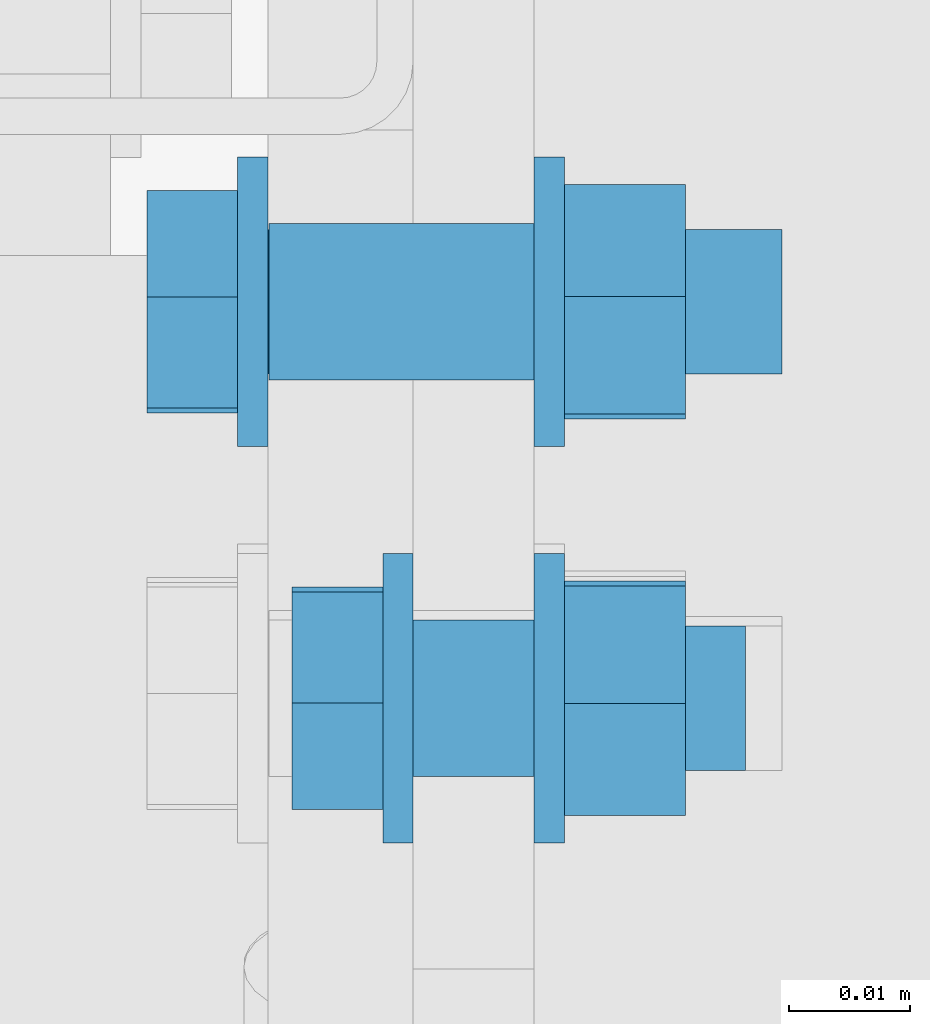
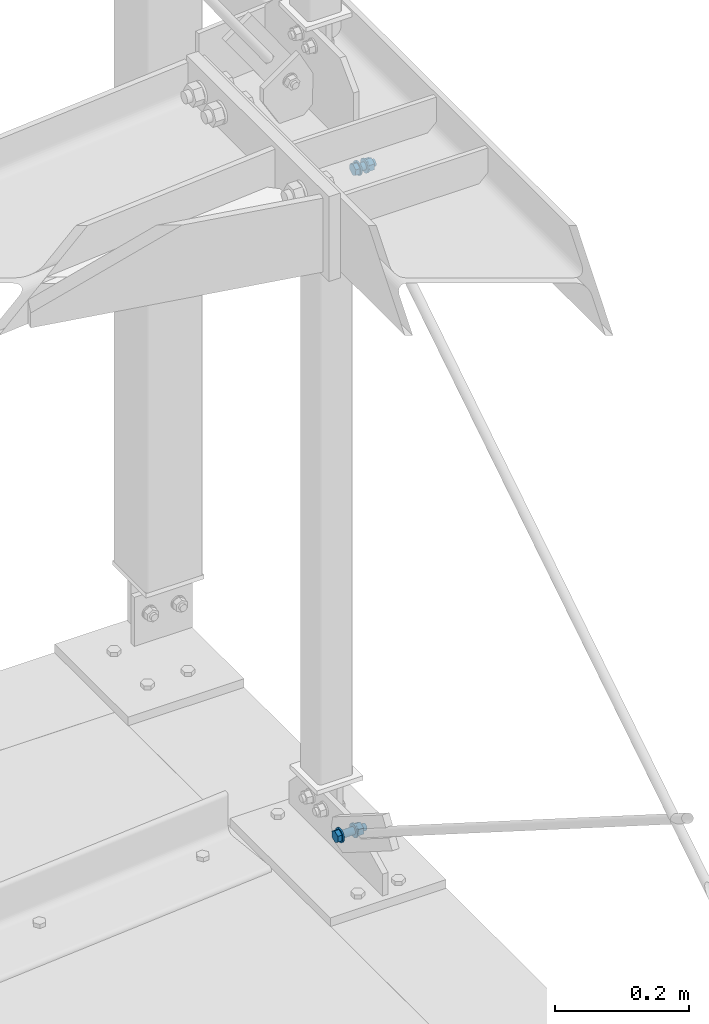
# One storey, part 267 of 271: 2 mechanical fasteners, 2 elements without a shape of their own.
"""IFC2X3 building model written with IfcOpenShell, lengths in millimetres."""

from ifc_helpers import new_model, si_unit, frame, origin_with_axes, origin_2d_with_axis, place, context, subcontext, project, spatial, polyline, circle, outline, extrude, source, transform, mapped, material, type_object, element, aggregate, save


model = new_model("IFC2X3")

# Units and contexts
model_context = context("Model", 3, precision=1e-05, world=origin_with_axes())
body_context = subcontext(model_context, "Body", "Model", "MODEL_VIEW")
ifc_project = project(units=[si_unit("LENGTHUNIT", "METRE", prefix="MILLI"), si_unit("AREAUNIT", "SQUARE_METRE"), si_unit("VOLUMEUNIT", "CUBIC_METRE"), si_unit("MASSUNIT", "GRAM", prefix="KILO"), si_unit("TIMEUNIT", "SECOND"), si_unit("PLANEANGLEUNIT", "RADIAN"), si_unit("SOLIDANGLEUNIT", "STERADIAN"), si_unit("THERMODYNAMICTEMPERATUREUNIT", "DEGREE_CELSIUS"), si_unit("LUMINOUSINTENSITYUNIT", "LUMEN")], contexts=[model_context])

# Site, building, storey
site_placement = place(None, origin_with_axes())
site = spatial("IfcSite", under=ifc_project, at=site_placement, Name="Undefined", CompositionType="ELEMENT")
building_placement = place(site_placement, origin_with_axes())
building = spatial("IfcBuilding", under=site, at=building_placement, Name="Undefined", CompositionType="ELEMENT")
storey_placement = place(building_placement, origin_with_axes())
storey = spatial("IfcBuildingStorey", under=building, at=storey_placement, Name="Undefined", CompositionType="ELEMENT", Elevation=0.0)

# Assembly, mechanical fastener
assembly_1_placement = place(storey_placement, origin_with_axes())
assembly_1 = element("IfcElementAssembly", 1, at=assembly_1_placement, inside=storey, AssemblyPlace="NOTDEFINED", PredefinedType="RIGID_FRAME")
ifc_material = material(Name="Undefined")
mechanical_fastener_type = type_object("IfcMechanicalFastenerType", Name="Bolt assembly")
shared_shape_1 = source(origin_with_axes(), body_context, "Body", "SweptSolid", [
    extrude(circle(Radius=6.5, at=origin_2d_with_axis()), frame((0.0, -5.1, 0.0), z_axis=(0.0, 1.0, 0.0), x_axis=(1.0, 0.0, 0.0)), (0.0, 0.0, 1.0), 10.1),
    extrude(circle(Radius=6.5, at=origin_2d_with_axis()), frame((0.0, -16.9, 0.0), z_axis=(0.0, 1.0, 0.0), x_axis=(1.0, 0.0, 0.0)), (0.0, 0.0, 1.0), 12.0),
    extrude(outline(polyline([(10.39230484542, 0.0), (5.19615242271, 9.00000000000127), (-5.19615242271, 9.00000000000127), (-10.39230484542, 0.0), (-5.19615242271, -9.00000000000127), (5.19615242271, -9.00000000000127), (10.39230484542, 0.0)])), frame((0.0, -27.0, 0.0), z_axis=(0.0, 1.0, 0.0), x_axis=(1.0, 0.0, 0.0)), (0.0, 0.0, 1.0), 7.5),
    extrude(circle(Radius=6.0, at=origin_2d_with_axis()), frame((0.0, -19.5, 0.0), z_axis=(0.0, 1.0, 0.0), x_axis=(1.0, 0.0, 0.0)), (0.0, 0.0, 1.0), 45.0),
    extrude(circle(Radius=12.0, at=origin_2d_with_axis()), frame((0.0, -19.5, 0.0), z_axis=(0.0, 1.0, 0.0), x_axis=(1.0, 0.0, 0.0)), (0.0, 0.0, 1.0), 2.5),
    extrude(circle(Radius=12.0, at=origin_2d_with_axis()), frame((0.0, 5.00000000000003, 0.0), z_axis=(0.0, 1.0, 0.0), x_axis=(1.0, 0.0, 0.0)), (0.0, 0.0, 1.0), 2.5),
    extrude(outline(polyline([(10.96965511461, 0.0), (5.484827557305, 9.50000000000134), (-5.484827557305, 9.50000000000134), (-10.96965511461, 0.0), (-5.484827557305, -9.50000000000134), (5.484827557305, -9.50000000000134), (10.96965511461, 0.0)])), frame((0.0, 7.50000000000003, 0.0), z_axis=(0.0, 1.0, 0.0), x_axis=(1.0, 0.0, 0.0)), (0.0, 0.0, 1.0), 10.0),
])
mechanical_fastener_1_placement = place(assembly_1_placement, frame((12608.7513748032, 4248.34795748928, 53.3416626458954), z_axis=(0.0, 0.533166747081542, 0.846010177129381), x_axis=(0.0, -0.846010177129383, 0.533166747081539)))
mechanical_fastener_1 = element("IfcMechanicalFastener", 2, at=mechanical_fastener_1_placement, type_object=mechanical_fastener_type, material=ifc_material, Name="Bolt assembly", NominalDiameter=12.0, NominalLength=45.0, context=body_context, shape_type="MappedRepresentation", body=[
    mapped(shared_shape_1, transform((0.0, 0.0, 0.0))),
])
aggregate(assembly_1, [mechanical_fastener_1])

assembly_2_placement = place(storey_placement, origin_with_axes())
assembly_2 = element("IfcElementAssembly", 3, at=assembly_2_placement, inside=storey, AssemblyPlace="NOTDEFINED", PredefinedType="RIGID_FRAME")
shared_shape_2 = source(origin_with_axes(), body_context, "Body", "SweptSolid", [
    extrude(circle(Radius=6.5, at=origin_2d_with_axis()), frame((0.0, -4.90000030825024, 0.0), z_axis=(0.0, 1.0, 0.0), x_axis=(1.0, 0.0, 0.0)), (0.0, 0.0, 1.0), 10.0),
    extrude(circle(Radius=6.5, at=origin_2d_with_axis()), frame((0.0, -5.1, 0.0), z_axis=(0.0, 1.0, 0.0), x_axis=(1.0, 0.0, 0.0)), (0.0, 0.0, 1.0), 10.1),
    extrude(outline(polyline([(10.39230484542, 0.0), (5.19615242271, 9.00000000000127), (-5.19615242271, 9.00000000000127), (-10.39230484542, 0.0), (-5.19615242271, -9.00000000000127), (5.19615242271, -9.00000000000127), (10.39230484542, 0.0)])), frame((0.0, -15.0000003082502, 0.0), z_axis=(0.0, 1.0, 0.0), x_axis=(1.0, 0.0, 0.0)), (0.0, 0.0, 1.0), 7.5),
    extrude(circle(Radius=6.0, at=origin_2d_with_axis()), frame((0.0, -7.5, 0.0), z_axis=(0.0, 1.0, 0.0), x_axis=(1.0, 0.0, 0.0)), (0.0, 0.0, 1.0), 30.0),
    extrude(circle(Radius=12.0, at=origin_2d_with_axis()), frame((0.0, -7.5, 0.0), z_axis=(0.0, 1.0, 0.0), x_axis=(1.0, 0.0, 0.0)), (0.0, 0.0, 1.0), 2.5),
    extrude(circle(Radius=12.0, at=origin_2d_with_axis()), frame((0.0, 5.00000000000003, 0.0), z_axis=(0.0, 1.0, 0.0), x_axis=(1.0, 0.0, 0.0)), (0.0, 0.0, 1.0), 2.5),
    extrude(outline(polyline([(10.96965511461, 0.0), (5.484827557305, 9.50000000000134), (-5.484827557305, 9.50000000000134), (-10.96965511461, 0.0), (-5.484827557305, -9.50000000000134), (5.484827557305, -9.50000000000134), (10.96965511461, 0.0)])), frame((0.0, 7.50000000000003, 0.0), z_axis=(0.0, 1.0, 0.0), x_axis=(1.0, 0.0, 0.0)), (0.0, 0.0, 1.0), 10.0),
])
mechanical_fastener_2_placement = place(assembly_2_placement, frame((12608.7513748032, 4215.58126521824, 1287.70833730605), z_axis=(0.0, -0.533166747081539, 0.846010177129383), x_axis=(0.0, -0.846010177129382, -0.533166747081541)))
mechanical_fastener_2 = element("IfcMechanicalFastener", 4, at=mechanical_fastener_2_placement, type_object=mechanical_fastener_type, material=ifc_material, Name="Bolt assembly", NominalDiameter=12.0, NominalLength=30.0, context=body_context, shape_type="MappedRepresentation", body=[
    mapped(shared_shape_2, transform((0.0, 0.0, 0.0))),
])
aggregate(assembly_2, [mechanical_fastener_2])

save(model, "model.ifc")
